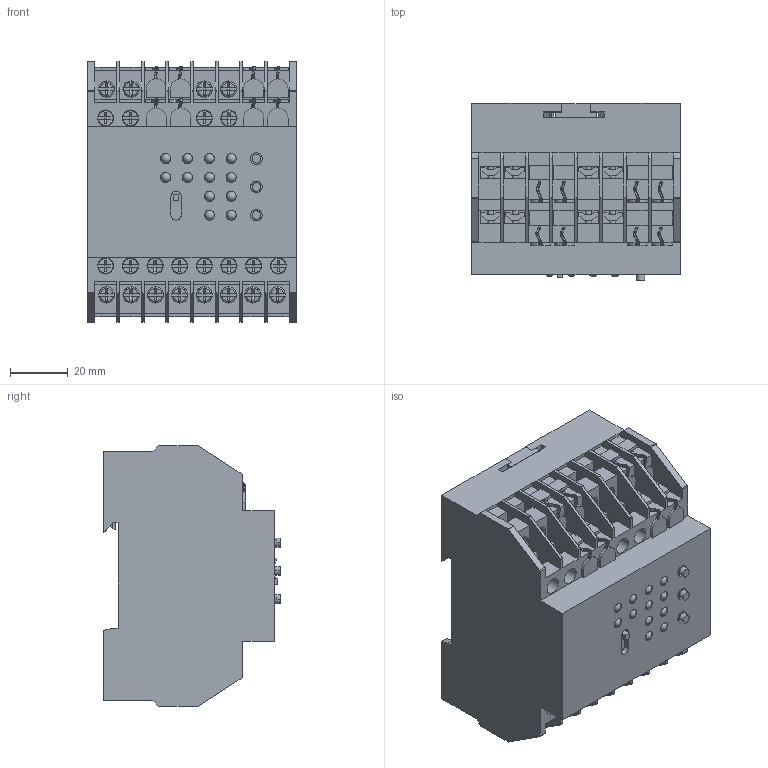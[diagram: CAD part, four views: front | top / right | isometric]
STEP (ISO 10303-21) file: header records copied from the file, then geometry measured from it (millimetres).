
FILE_DESCRIPTION((''),'2;1');
FILE_NAME('C:\Dokumente und Einstellungen\Kramp\Eigene Dateien\Microsonic Nacharbeit 2\Rest\STP\wms-4_4 X.stp','2005-08-11T12:01:24',('Kramp'),(''),'Autodesk Inventor 7','Autodesk Inventor 7','');
FILE_SCHEMA(('AUTOMOTIVE_DESIGN { 1 0 10303 214 1 1 1 1 }'));
Length unit declared in the file: millimetre
Products named in the file (1): wms-4_4 X
Bounding box: 72 x 61 x 90 mm (x, y, z)
Volume: 272861.8 mm3; surface area: 57969.9 mm2
Topology: 6 solids, 6 shells, 2691 faces, 6961 edges, 4434 vertices
Faces by surface type: plane 1490, cylinder 534, torus 432, cone 112, bspline 111, sphere 12
Entity records: 82397 total; most frequent: CARTESIAN_POINT 15508, DIRECTION 14151, ORIENTED_EDGE 13842, EDGE_CURVE 6921, AXIS2_PLACEMENT_3D 4777, VECTOR 4597, LINE 4597, VERTEX_POINT 4410
